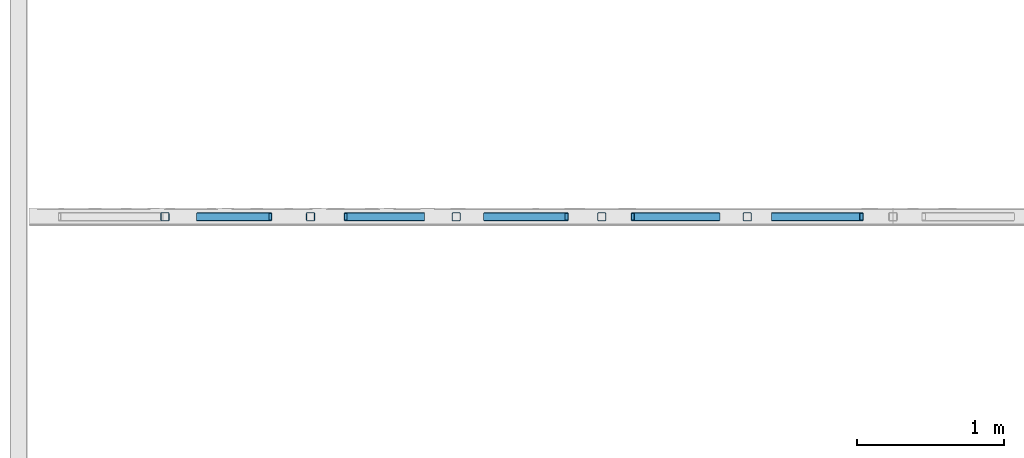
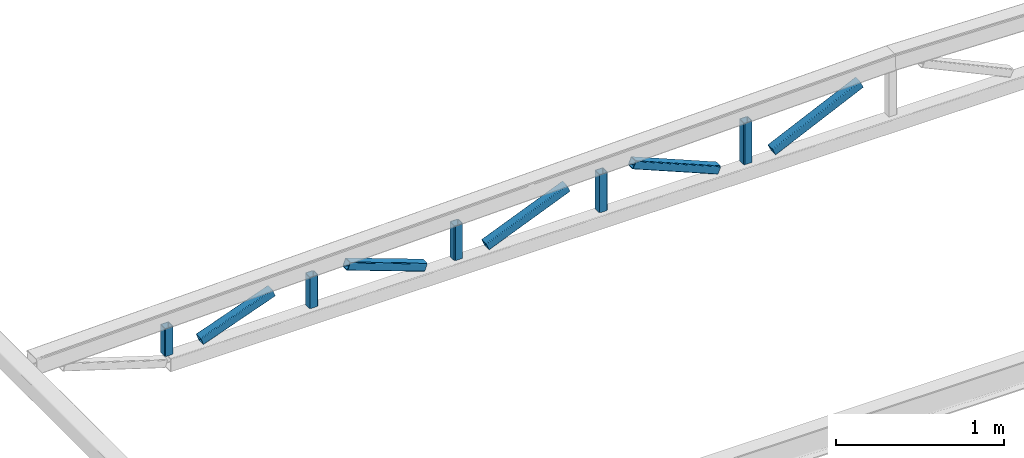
# One storey, part 3 of 10: 10 members, 1 element without a shape of its own.
"""IFC2X3 building model written with IfcOpenShell, lengths in millimetres."""

from ifc_helpers import new_model, entity, si_unit, converted_unit, derived_unit, direction, frame, frame_2d, origin, place, context, subcontext, project, spatial, polyline, circle_curve, parameter, trimmed, segment, composite_curve, outline, extrude, source, transform, mapped, type_object, type_shapes, element, aggregate, save


model = new_model("IFC2X3")

# Units and contexts
model_context = context("Model", 3, precision=0.01, world=origin(), true_north=direction((6.12303176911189e-17, 1.0)))
body_context = subcontext(model_context, "Body", "Model", "MODEL_VIEW")
ifc_project = project(units=[si_unit("LENGTHUNIT", "METRE", prefix="MILLI"), si_unit("AREAUNIT", "SQUARE_METRE"), si_unit("VOLUMEUNIT", "CUBIC_METRE"), converted_unit("PLANEANGLEUNIT", "DEGREE", entity("IfcRatioMeasure", 0.0174532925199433), si_unit("PLANEANGLEUNIT", "RADIAN"), dimensions=[0, 0, 0, 0, 0, 0, 0]), si_unit("MASSUNIT", "GRAM", prefix="KILO"), derived_unit("MASSDENSITYUNIT", [(si_unit("MASSUNIT", "GRAM", prefix="KILO"), 1), (si_unit("LENGTHUNIT", "METRE"), -3)]), si_unit("TIMEUNIT", "SECOND"), si_unit("FREQUENCYUNIT", "HERTZ"), si_unit("THERMODYNAMICTEMPERATUREUNIT", "DEGREE_CELSIUS"), derived_unit("THERMALTRANSMITTANCEUNIT", [(si_unit("MASSUNIT", "GRAM", prefix="KILO"), 1), (si_unit("THERMODYNAMICTEMPERATUREUNIT", "KELVIN"), -1), (si_unit("TIMEUNIT", "SECOND"), -3)]), derived_unit("VOLUMETRICFLOWRATEUNIT", [(si_unit("LENGTHUNIT", "METRE"), 3), (si_unit("TIMEUNIT", "SECOND"), -1)]), si_unit("ELECTRICCURRENTUNIT", "AMPERE"), si_unit("ELECTRICVOLTAGEUNIT", "VOLT"), si_unit("POWERUNIT", "WATT"), si_unit("FORCEUNIT", "NEWTON", prefix="KILO"), si_unit("ILLUMINANCEUNIT", "LUX"), si_unit("LUMINOUSFLUXUNIT", "LUMEN"), si_unit("LUMINOUSINTENSITYUNIT", "CANDELA"), derived_unit("USERDEFINED", [(si_unit("MASSUNIT", "GRAM", prefix="KILO"), -1), (si_unit("LENGTHUNIT", "METRE"), -2), (si_unit("TIMEUNIT", "SECOND"), 3), (si_unit("LUMINOUSFLUXUNIT", "LUMEN"), 1)]), derived_unit("LINEARVELOCITYUNIT", [(si_unit("LENGTHUNIT", "METRE"), 1), (si_unit("TIMEUNIT", "SECOND"), -1)]), si_unit("PRESSUREUNIT", "PASCAL"), derived_unit("USERDEFINED", [(si_unit("LENGTHUNIT", "METRE"), -2), (si_unit("MASSUNIT", "GRAM", prefix="KILO"), 1), (si_unit("TIMEUNIT", "SECOND"), -2)])], contexts=[model_context])

# Site, building, storey
site_placement = place(None, frame((0.0, 0.0, 101000.0)))
site = spatial("IfcSite", under=ifc_project, at=site_placement, Name="Default", CompositionType="ELEMENT")
building_placement = place(site_placement, origin())
building = spatial("IfcBuilding", under=site, at=building_placement, CompositionType="ELEMENT")
storey_placement = place(building_placement, frame((0.0, 0.0, 6025.0)))
storey = spatial("IfcBuildingStorey", under=building, at=storey_placement, Name="03", CompositionType="ELEMENT", Elevation=6024.9999999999)

# Assembly, members
assembly_placement = place(storey_placement, origin())
assembly = element("IfcElementAssembly", 1, at=assembly_placement, inside=storey, Name="Gitterdrager:Standard", ObjectType="Gitterdrager:Standard", AssemblyPlace="NOTDEFINED", PredefinedType="TRUSS")
member_type_1 = type_object("IfcMemberType", Name="60x60x5", PredefinedType="BRACE")
shared_shape_1 = source(origin(), body_context, "Body", "SweptSolid", [
    extrude(outline(composite_curve([segment(trimmed(circle_curve(frame_2d((-20.0, -20.0), x_axis=(1.0, 0.0)), 10.0), [parameter(180.0)], [parameter(270.0)], True, "PARAMETER"), True, "CONTINUOUS"), segment(polyline([(-20.0, -30.0), (20.0, -30.0)]), True, "CONTINUOUS"), segment(trimmed(circle_curve(frame_2d((20.0, -20.0), x_axis=(1.0, 0.0)), 10.0), [parameter(270.0)], [parameter(5.08888749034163e-14)], True, "PARAMETER"), True, "CONTINUOUS"), segment(polyline([(30.0, -20.0), (30.0, 20.0)]), True, "CONTINUOUS"), segment(trimmed(circle_curve(frame_2d((20.0, 20.0), x_axis=(1.0, 0.0)), 10.0), [parameter(360.0)], [parameter(89.9999999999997)], True, "PARAMETER"), True, "CONTINUOUS"), segment(polyline([(20.0, 30.0), (-20.0, 30.0)]), True, "CONTINUOUS"), segment(trimmed(circle_curve(frame_2d((-20.0, 20.0), x_axis=(1.0, 0.0)), 10.0), [parameter(90.0000000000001)], [parameter(180.0)], True, "PARAMETER"), True, "CONTINUOUS"), segment(polyline([(-30.0, 20.0), (-30.0, -20.0)]), True, "CONTINUOUS")], self_intersect=False), holes=[composite_curve([segment(polyline([(20.0, -25.0), (-20.0, -25.0)]), True, "CONTINUOUS"), segment(trimmed(circle_curve(frame_2d((-20.0, -20.0), x_axis=(1.0, 0.0)), 5.0), [parameter(180.0)], [parameter(270.0)], True, "PARAMETER"), False, "CONTINUOUS"), segment(polyline([(-25.0, -20.0), (-25.0, 20.0)]), True, "CONTINUOUS"), segment(trimmed(circle_curve(frame_2d((-20.0, 20.0), x_axis=(1.0, 0.0)), 5.0), [parameter(90.0000000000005)], [parameter(180.0)], True, "PARAMETER"), False, "CONTINUOUS"), segment(polyline([(-20.0, 25.0), (20.0, 25.0)]), True, "CONTINUOUS"), segment(trimmed(circle_curve(frame_2d((20.0, 20.0), x_axis=(1.0, 0.0)), 5.0), [parameter(0.0)], [parameter(90.0000000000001)], True, "PARAMETER"), False, "CONTINUOUS"), segment(polyline([(25.0, 20.0), (25.0, -20.0)]), True, "CONTINUOUS"), segment(trimmed(circle_curve(frame_2d((20.0, -20.0), x_axis=(1.0, 0.0)), 5.0), [parameter(270.0)], [parameter(4.57999874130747e-13)], True, "PARAMETER"), False, "CONTINUOUS")], self_intersect=False)]), frame((-155.792423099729, 0.0, 0.0), z_axis=(1.0, 0.0, 0.0), x_axis=(0.0, -1.0, 0.0)), (0.0, 0.0, 1.0), 300.049419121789),
])
type_shapes(member_type_1, [shared_shape_1])
member_1_placement = place(assembly_placement, frame((16232.9311636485, 26417.9507529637, -122.531331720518), z_axis=(1.0, 0.0, 0.0), x_axis=(0.0, 0.0, 1.0)))
member_1 = element("IfcMember", 2, at=member_1_placement, type_object=member_type_1, Name="Bjelke HUP:60x60x5", ObjectType="60x60x5", context=body_context, shape_type="MappedRepresentation", body=[
    mapped(shared_shape_1, transform((0.0, 0.0, 0.0), scale=1.0)),
])
member_type_2 = type_object("IfcMemberType", Name="60x60x5", PredefinedType="BRACE")
shared_shape_2 = source(origin(), body_context, "Body", "SweptSolid", [
    extrude(outline(composite_curve([segment(trimmed(circle_curve(frame_2d((-20.0, -20.0), x_axis=(1.0, 0.0)), 10.0), [parameter(180.0)], [parameter(270.0)], True, "PARAMETER"), True, "CONTINUOUS"), segment(polyline([(-20.0, -30.0), (20.0, -30.0)]), True, "CONTINUOUS"), segment(trimmed(circle_curve(frame_2d((20.0, -20.0), x_axis=(1.0, 0.0)), 10.0), [parameter(270.0)], [parameter(5.08888749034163e-14)], True, "PARAMETER"), True, "CONTINUOUS"), segment(polyline([(30.0, -20.0), (30.0, 20.0)]), True, "CONTINUOUS"), segment(trimmed(circle_curve(frame_2d((20.0, 20.0), x_axis=(1.0, 0.0)), 10.0), [parameter(360.0)], [parameter(89.9999999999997)], True, "PARAMETER"), True, "CONTINUOUS"), segment(polyline([(20.0, 30.0), (-20.0, 30.0)]), True, "CONTINUOUS"), segment(trimmed(circle_curve(frame_2d((-20.0, 20.0), x_axis=(1.0, 0.0)), 10.0), [parameter(90.0000000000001)], [parameter(180.0)], True, "PARAMETER"), True, "CONTINUOUS"), segment(polyline([(-30.0, 20.0), (-30.0, -20.0)]), True, "CONTINUOUS")], self_intersect=False), holes=[composite_curve([segment(polyline([(20.0, -25.0), (-20.0, -25.0)]), True, "CONTINUOUS"), segment(trimmed(circle_curve(frame_2d((-20.0, -20.0), x_axis=(1.0, 0.0)), 5.0), [parameter(180.0)], [parameter(270.0)], True, "PARAMETER"), False, "CONTINUOUS"), segment(polyline([(-25.0, -20.0), (-25.0, 20.0)]), True, "CONTINUOUS"), segment(trimmed(circle_curve(frame_2d((-20.0, 20.0), x_axis=(1.0, 0.0)), 5.0), [parameter(90.0000000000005)], [parameter(180.0)], True, "PARAMETER"), False, "CONTINUOUS"), segment(polyline([(-20.0, 25.0), (20.0, 25.0)]), True, "CONTINUOUS"), segment(trimmed(circle_curve(frame_2d((20.0, 20.0), x_axis=(1.0, 0.0)), 5.0), [parameter(0.0)], [parameter(90.0000000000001)], True, "PARAMETER"), False, "CONTINUOUS"), segment(polyline([(25.0, 20.0), (25.0, -20.0)]), True, "CONTINUOUS"), segment(trimmed(circle_curve(frame_2d((20.0, -20.0), x_axis=(1.0, 0.0)), 5.0), [parameter(270.0)], [parameter(4.57999874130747e-13)], True, "PARAMETER"), False, "CONTINUOUS")], self_intersect=False)]), frame((-143.393968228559, 0.0, 0.0), z_axis=(1.0, 0.0, 0.0), x_axis=(0.0, -1.0, 0.0)), (0.0, 0.0, 1.0), 275.252509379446),
])
type_shapes(member_type_2, [shared_shape_2])
member_2_placement = place(assembly_placement, frame((15239.6002137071, 26417.9507529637, -134.929786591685), z_axis=(1.0, 0.0, 0.0), x_axis=(0.0, 0.0, 1.0)))
member_2 = element("IfcMember", 3, at=member_2_placement, type_object=member_type_2, Name="Bjelke HUP:60x60x5", ObjectType="60x60x5", context=body_context, shape_type="MappedRepresentation", body=[
    mapped(shared_shape_2, transform((0.0, 0.0, 0.0), scale=1.0)),
])
member_type_3 = type_object("IfcMemberType", Name="60x60x5", PredefinedType="BRACE")
shared_shape_3 = source(origin(), body_context, "Body", "SweptSolid", [
    extrude(outline(composite_curve([segment(trimmed(circle_curve(frame_2d((-20.0, -20.0), x_axis=(1.0, 0.0)), 10.0), [parameter(180.0)], [parameter(270.0)], True, "PARAMETER"), True, "CONTINUOUS"), segment(polyline([(-20.0, -30.0), (20.0, -30.0)]), True, "CONTINUOUS"), segment(trimmed(circle_curve(frame_2d((20.0, -20.0), x_axis=(1.0, 0.0)), 10.0), [parameter(270.0)], [parameter(5.08888749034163e-14)], True, "PARAMETER"), True, "CONTINUOUS"), segment(polyline([(30.0, -20.0), (30.0, 20.0)]), True, "CONTINUOUS"), segment(trimmed(circle_curve(frame_2d((20.0, 20.0), x_axis=(1.0, 0.0)), 10.0), [parameter(360.0)], [parameter(89.9999999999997)], True, "PARAMETER"), True, "CONTINUOUS"), segment(polyline([(20.0, 30.0), (-20.0, 30.0)]), True, "CONTINUOUS"), segment(trimmed(circle_curve(frame_2d((-20.0, 20.0), x_axis=(1.0, 0.0)), 10.0), [parameter(90.0000000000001)], [parameter(180.0)], True, "PARAMETER"), True, "CONTINUOUS"), segment(polyline([(-30.0, 20.0), (-30.0, -20.0)]), True, "CONTINUOUS")], self_intersect=False), holes=[composite_curve([segment(polyline([(20.0, -25.0), (-20.0, -25.0)]), True, "CONTINUOUS"), segment(trimmed(circle_curve(frame_2d((-20.0, -20.0), x_axis=(1.0, 0.0)), 5.0), [parameter(180.0)], [parameter(270.0)], True, "PARAMETER"), False, "CONTINUOUS"), segment(polyline([(-25.0, -20.0), (-25.0, 20.0)]), True, "CONTINUOUS"), segment(trimmed(circle_curve(frame_2d((-20.0, 20.0), x_axis=(1.0, 0.0)), 5.0), [parameter(90.0000000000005)], [parameter(180.0)], True, "PARAMETER"), False, "CONTINUOUS"), segment(polyline([(-20.0, 25.0), (20.0, 25.0)]), True, "CONTINUOUS"), segment(trimmed(circle_curve(frame_2d((20.0, 20.0), x_axis=(1.0, 0.0)), 5.0), [parameter(0.0)], [parameter(90.0000000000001)], True, "PARAMETER"), False, "CONTINUOUS"), segment(polyline([(25.0, 20.0), (25.0, -20.0)]), True, "CONTINUOUS"), segment(trimmed(circle_curve(frame_2d((20.0, -20.0), x_axis=(1.0, 0.0)), 5.0), [parameter(270.0)], [parameter(4.57999874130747e-13)], True, "PARAMETER"), False, "CONTINUOUS")], self_intersect=False)]), frame((-130.995453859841, 0.0, 0.0), z_axis=(1.0, 0.0, 0.0), x_axis=(0.0, -1.0, 0.0)), (0.0, 0.0, 1.0), 250.455480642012),
])
type_shapes(member_type_3, [shared_shape_3])
member_3_placement = place(assembly_placement, frame((14246.2644969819, 26417.9507529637, -147.328300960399), z_axis=(1.0, 0.0, 0.0), x_axis=(0.0, 0.0, 1.0)))
member_3 = element("IfcMember", 4, at=member_3_placement, type_object=member_type_3, Name="Bjelke HUP:60x60x5", ObjectType="60x60x5", context=body_context, shape_type="MappedRepresentation", body=[
    mapped(shared_shape_3, transform((0.0, 0.0, 0.0), scale=1.0)),
])
member_type_4 = type_object("IfcMemberType", Name="60x60x5", PredefinedType="BRACE")
shared_shape_4 = source(origin(), body_context, "Body", "SweptSolid", [
    extrude(outline(composite_curve([segment(trimmed(circle_curve(frame_2d((-20.0, -20.0), x_axis=(1.0, 0.0)), 10.0), [parameter(180.0)], [parameter(270.0)], True, "PARAMETER"), True, "CONTINUOUS"), segment(polyline([(-20.0, -30.0), (20.0, -30.0)]), True, "CONTINUOUS"), segment(trimmed(circle_curve(frame_2d((20.0, -20.0), x_axis=(1.0, 0.0)), 10.0), [parameter(270.0)], [parameter(5.08888749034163e-14)], True, "PARAMETER"), True, "CONTINUOUS"), segment(polyline([(30.0, -20.0), (30.0, 20.0)]), True, "CONTINUOUS"), segment(trimmed(circle_curve(frame_2d((20.0, 20.0), x_axis=(1.0, 0.0)), 10.0), [parameter(360.0)], [parameter(89.9999999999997)], True, "PARAMETER"), True, "CONTINUOUS"), segment(polyline([(20.0, 30.0), (-20.0, 30.0)]), True, "CONTINUOUS"), segment(trimmed(circle_curve(frame_2d((-20.0, 20.0), x_axis=(1.0, 0.0)), 10.0), [parameter(90.0000000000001)], [parameter(180.0)], True, "PARAMETER"), True, "CONTINUOUS"), segment(polyline([(-30.0, 20.0), (-30.0, -20.0)]), True, "CONTINUOUS")], self_intersect=False), holes=[composite_curve([segment(polyline([(20.0, -25.0), (-20.0, -25.0)]), True, "CONTINUOUS"), segment(trimmed(circle_curve(frame_2d((-20.0, -20.0), x_axis=(1.0, 0.0)), 5.0), [parameter(180.0)], [parameter(270.0)], True, "PARAMETER"), False, "CONTINUOUS"), segment(polyline([(-25.0, -20.0), (-25.0, 20.0)]), True, "CONTINUOUS"), segment(trimmed(circle_curve(frame_2d((-20.0, 20.0), x_axis=(1.0, 0.0)), 5.0), [parameter(90.0000000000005)], [parameter(180.0)], True, "PARAMETER"), False, "CONTINUOUS"), segment(polyline([(-20.0, 25.0), (20.0, 25.0)]), True, "CONTINUOUS"), segment(trimmed(circle_curve(frame_2d((20.0, 20.0), x_axis=(1.0, 0.0)), 5.0), [parameter(0.0)], [parameter(90.0000000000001)], True, "PARAMETER"), False, "CONTINUOUS"), segment(polyline([(25.0, 20.0), (25.0, -20.0)]), True, "CONTINUOUS"), segment(trimmed(circle_curve(frame_2d((20.0, -20.0), x_axis=(1.0, 0.0)), 5.0), [parameter(270.0)], [parameter(4.57999874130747e-13)], True, "PARAMETER"), False, "CONTINUOUS")], self_intersect=False)]), frame((-118.596969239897, 0.0, 0.0), z_axis=(1.0, 0.0, 0.0), x_axis=(0.0, -1.0, 0.0)), (0.0, 0.0, 1.0), 225.658511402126),
])
type_shapes(member_type_4, [shared_shape_4])
member_4_placement = place(assembly_placement, frame((13252.9311636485, 26417.9507529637, -159.726785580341), z_axis=(1.0, 0.0, 0.0), x_axis=(0.0, 0.0, 1.0)))
member_4 = element("IfcMember", 5, at=member_4_placement, type_object=member_type_4, Name="Bjelke HUP:60x60x5", ObjectType="60x60x5", context=body_context, shape_type="MappedRepresentation", body=[
    mapped(shared_shape_4, transform((0.0, 0.0, 0.0), scale=1.0)),
])
member_type_5 = type_object("IfcMemberType", Name="60x60x5", PredefinedType="BRACE")
shared_shape_5 = source(origin(), body_context, "Body", "SweptSolid", [
    extrude(outline(composite_curve([segment(trimmed(circle_curve(frame_2d((-20.0, -20.0), x_axis=(1.0, 0.0)), 10.0), [parameter(180.0)], [parameter(270.0)], True, "PARAMETER"), True, "CONTINUOUS"), segment(polyline([(-20.0, -30.0), (20.0, -30.0)]), True, "CONTINUOUS"), segment(trimmed(circle_curve(frame_2d((20.0, -20.0), x_axis=(1.0, 0.0)), 10.0), [parameter(270.0)], [parameter(5.08888749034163e-14)], True, "PARAMETER"), True, "CONTINUOUS"), segment(polyline([(30.0, -20.0), (30.0, 20.0)]), True, "CONTINUOUS"), segment(trimmed(circle_curve(frame_2d((20.0, 20.0), x_axis=(1.0, 0.0)), 10.0), [parameter(360.0)], [parameter(89.9999999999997)], True, "PARAMETER"), True, "CONTINUOUS"), segment(polyline([(20.0, 30.0), (-20.0, 30.0)]), True, "CONTINUOUS"), segment(trimmed(circle_curve(frame_2d((-20.0, 20.0), x_axis=(1.0, 0.0)), 10.0), [parameter(90.0000000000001)], [parameter(180.0)], True, "PARAMETER"), True, "CONTINUOUS"), segment(polyline([(-30.0, 20.0), (-30.0, -20.0)]), True, "CONTINUOUS")], self_intersect=False), holes=[composite_curve([segment(polyline([(20.0, -25.0), (-20.0, -25.0)]), True, "CONTINUOUS"), segment(trimmed(circle_curve(frame_2d((-20.0, -20.0), x_axis=(1.0, 0.0)), 5.0), [parameter(180.0)], [parameter(270.0)], True, "PARAMETER"), False, "CONTINUOUS"), segment(polyline([(-25.0, -20.0), (-25.0, 20.0)]), True, "CONTINUOUS"), segment(trimmed(circle_curve(frame_2d((-20.0, 20.0), x_axis=(1.0, 0.0)), 5.0), [parameter(90.0000000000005)], [parameter(180.0)], True, "PARAMETER"), False, "CONTINUOUS"), segment(polyline([(-20.0, 25.0), (20.0, 25.0)]), True, "CONTINUOUS"), segment(trimmed(circle_curve(frame_2d((20.0, 20.0), x_axis=(1.0, 0.0)), 5.0), [parameter(0.0)], [parameter(90.0000000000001)], True, "PARAMETER"), False, "CONTINUOUS"), segment(polyline([(25.0, 20.0), (25.0, -20.0)]), True, "CONTINUOUS"), segment(trimmed(circle_curve(frame_2d((20.0, -20.0), x_axis=(1.0, 0.0)), 5.0), [parameter(270.0)], [parameter(4.57999874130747e-13)], True, "PARAMETER"), False, "CONTINUOUS")], self_intersect=False)]), frame((-106.198484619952, 0.0, 0.0), z_axis=(1.0, 0.0, 0.0), x_axis=(0.0, -1.0, 0.0)), (0.0, 0.0, 1.0), 200.861542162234),
])
type_shapes(member_type_5, [shared_shape_5])
member_5_placement = place(assembly_placement, frame((12259.5978303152, 26417.9507529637, -172.12527020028), z_axis=(1.0, 0.0, 0.0), x_axis=(0.0, 0.0, 1.0)))
member_5 = element("IfcMember", 6, at=member_5_placement, type_object=member_type_5, Name="Bjelke HUP:60x60x5", ObjectType="60x60x5", context=body_context, shape_type="MappedRepresentation", body=[
    mapped(shared_shape_5, transform((0.0, 0.0, 0.0), scale=1.0)),
])
member_type_6 = type_object("IfcMemberType", Name="60x60x5", PredefinedType="BRACE")
shared_shape_6 = source(origin(), body_context, "Body", "SweptSolid", [
    extrude(outline(composite_curve([segment(trimmed(circle_curve(frame_2d((-20.0, -20.0), x_axis=(1.0, 0.0)), 10.0), [parameter(180.0)], [parameter(270.0)], True, "PARAMETER"), True, "CONTINUOUS"), segment(polyline([(-20.0, -30.0), (20.0, -30.0)]), True, "CONTINUOUS"), segment(trimmed(circle_curve(frame_2d((20.0, -20.0), x_axis=(1.0, 0.0)), 10.0), [parameter(270.0)], [parameter(5.08888749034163e-14)], True, "PARAMETER"), True, "CONTINUOUS"), segment(polyline([(30.0, -20.0), (30.0, 20.0)]), True, "CONTINUOUS"), segment(trimmed(circle_curve(frame_2d((20.0, 20.0), x_axis=(1.0, 0.0)), 10.0), [parameter(360.0)], [parameter(89.9999999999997)], True, "PARAMETER"), True, "CONTINUOUS"), segment(polyline([(20.0, 30.0), (-20.0, 30.0)]), True, "CONTINUOUS"), segment(trimmed(circle_curve(frame_2d((-20.0, 20.0), x_axis=(1.0, 0.0)), 10.0), [parameter(90.0000000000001)], [parameter(180.0)], True, "PARAMETER"), True, "CONTINUOUS"), segment(polyline([(-30.0, 20.0), (-30.0, -20.0)]), True, "CONTINUOUS")], self_intersect=False), holes=[composite_curve([segment(polyline([(20.0, -25.0), (-20.0, -25.0)]), True, "CONTINUOUS"), segment(trimmed(circle_curve(frame_2d((-20.0, -20.0), x_axis=(1.0, 0.0)), 5.0), [parameter(180.0)], [parameter(270.0)], True, "PARAMETER"), False, "CONTINUOUS"), segment(polyline([(-25.0, -20.0), (-25.0, 20.0)]), True, "CONTINUOUS"), segment(trimmed(circle_curve(frame_2d((-20.0, 20.0), x_axis=(1.0, 0.0)), 5.0), [parameter(90.0000000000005)], [parameter(180.0)], True, "PARAMETER"), False, "CONTINUOUS"), segment(polyline([(-20.0, 25.0), (20.0, 25.0)]), True, "CONTINUOUS"), segment(trimmed(circle_curve(frame_2d((20.0, 20.0), x_axis=(1.0, 0.0)), 5.0), [parameter(0.0)], [parameter(90.0000000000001)], True, "PARAMETER"), False, "CONTINUOUS"), segment(polyline([(25.0, 20.0), (25.0, -20.0)]), True, "CONTINUOUS"), segment(trimmed(circle_curve(frame_2d((20.0, -20.0), x_axis=(1.0, 0.0)), 5.0), [parameter(270.0)], [parameter(4.57999874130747e-13)], True, "PARAMETER"), False, "CONTINUOUS")], self_intersect=False)]), frame((-351.247436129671, 0.0, 0.0), z_axis=(1.0, 0.0, 0.0), x_axis=(0.0, -1.0, 0.0)), (0.0, 0.0, 1.0), 664.357457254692),
])
type_shapes(member_type_6, [shared_shape_6])
member_6_placement = place(assembly_placement, frame((16728.5730107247, 26417.9507529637, -110.158430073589), z_axis=(0.422233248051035, 0.0, -0.906487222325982), x_axis=(0.906487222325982, 0.0, 0.422233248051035)))
member_6 = element("IfcMember", 7, at=member_6_placement, type_object=member_type_6, Name="Bjelke HUP:60x60x5", ObjectType="60x60x5", context=body_context, shape_type="MappedRepresentation", body=[
    mapped(shared_shape_6, transform((0.0, 0.0, 0.0), scale=1.0)),
])
member_type_7 = type_object("IfcMemberType", Name="60x60x5", PredefinedType="BRACE")
shared_shape_7 = source(origin(), body_context, "Body", "SweptSolid", [
    extrude(outline(composite_curve([segment(trimmed(circle_curve(frame_2d((-20.0, -20.0), x_axis=(1.0, 0.0)), 10.0), [parameter(180.0)], [parameter(270.0)], True, "PARAMETER"), True, "CONTINUOUS"), segment(polyline([(-20.0, -30.0), (20.0, -30.0)]), True, "CONTINUOUS"), segment(trimmed(circle_curve(frame_2d((20.0, -20.0), x_axis=(1.0, 0.0)), 10.0), [parameter(270.0)], [parameter(5.08888749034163e-14)], True, "PARAMETER"), True, "CONTINUOUS"), segment(polyline([(30.0, -20.0), (30.0, 20.0)]), True, "CONTINUOUS"), segment(trimmed(circle_curve(frame_2d((20.0, 20.0), x_axis=(1.0, 0.0)), 10.0), [parameter(360.0)], [parameter(89.9999999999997)], True, "PARAMETER"), True, "CONTINUOUS"), segment(polyline([(20.0, 30.0), (-20.0, 30.0)]), True, "CONTINUOUS"), segment(trimmed(circle_curve(frame_2d((-20.0, 20.0), x_axis=(1.0, 0.0)), 10.0), [parameter(90.0000000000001)], [parameter(180.0)], True, "PARAMETER"), True, "CONTINUOUS"), segment(polyline([(-30.0, 20.0), (-30.0, -20.0)]), True, "CONTINUOUS")], self_intersect=False), holes=[composite_curve([segment(polyline([(20.0, -25.0), (-20.0, -25.0)]), True, "CONTINUOUS"), segment(trimmed(circle_curve(frame_2d((-20.0, -20.0), x_axis=(1.0, 0.0)), 5.0), [parameter(180.0)], [parameter(270.0)], True, "PARAMETER"), False, "CONTINUOUS"), segment(polyline([(-25.0, -20.0), (-25.0, 20.0)]), True, "CONTINUOUS"), segment(trimmed(circle_curve(frame_2d((-20.0, 20.0), x_axis=(1.0, 0.0)), 5.0), [parameter(90.0000000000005)], [parameter(180.0)], True, "PARAMETER"), False, "CONTINUOUS"), segment(polyline([(-20.0, 25.0), (20.0, 25.0)]), True, "CONTINUOUS"), segment(trimmed(circle_curve(frame_2d((20.0, 20.0), x_axis=(1.0, 0.0)), 5.0), [parameter(0.0)], [parameter(90.0000000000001)], True, "PARAMETER"), False, "CONTINUOUS"), segment(polyline([(25.0, 20.0), (25.0, -20.0)]), True, "CONTINUOUS"), segment(trimmed(circle_curve(frame_2d((20.0, -20.0), x_axis=(1.0, 0.0)), 5.0), [parameter(270.0)], [parameter(4.57999874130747e-13)], True, "PARAMETER"), False, "CONTINUOUS")], self_intersect=False)]), frame((-322.27532019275, 0.0, 0.0), z_axis=(1.0, 0.0, 0.0), x_axis=(0.0, -1.0, 0.0)), (0.0, 0.0, 1.0), 600.830243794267),
])
type_shapes(member_type_7, [shared_shape_7])
member_7_placement = place(assembly_placement, frame((14742.9323553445, 26417.9507529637, -134.929786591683), z_axis=(0.383266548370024, 0.0, -0.923637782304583), x_axis=(0.923637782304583, 0.0, 0.383266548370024)))
member_7 = element("IfcMember", 8, at=member_7_placement, type_object=member_type_7, Name="Bjelke HUP:60x60x5", ObjectType="60x60x5", context=body_context, shape_type="MappedRepresentation", body=[
    mapped(shared_shape_7, transform((0.0, 0.0, 0.0), scale=1.0)),
])
member_type_8 = type_object("IfcMemberType", Name="60x60x5", PredefinedType="BRACE")
shared_shape_8 = source(origin(), body_context, "Body", "SweptSolid", [
    extrude(outline(composite_curve([segment(trimmed(circle_curve(frame_2d((-20.0, -20.0), x_axis=(1.0, 0.0)), 10.0), [parameter(180.0)], [parameter(270.0)], True, "PARAMETER"), True, "CONTINUOUS"), segment(polyline([(-20.0, -30.0), (20.0, -30.0)]), True, "CONTINUOUS"), segment(trimmed(circle_curve(frame_2d((20.0, -20.0), x_axis=(1.0, 0.0)), 10.0), [parameter(270.0)], [parameter(5.08888749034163e-14)], True, "PARAMETER"), True, "CONTINUOUS"), segment(polyline([(30.0, -20.0), (30.0, 20.0)]), True, "CONTINUOUS"), segment(trimmed(circle_curve(frame_2d((20.0, 20.0), x_axis=(1.0, 0.0)), 10.0), [parameter(360.0)], [parameter(89.9999999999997)], True, "PARAMETER"), True, "CONTINUOUS"), segment(polyline([(20.0, 30.0), (-20.0, 30.0)]), True, "CONTINUOUS"), segment(trimmed(circle_curve(frame_2d((-20.0, 20.0), x_axis=(1.0, 0.0)), 10.0), [parameter(90.0000000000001)], [parameter(180.0)], True, "PARAMETER"), True, "CONTINUOUS"), segment(polyline([(-30.0, 20.0), (-30.0, -20.0)]), True, "CONTINUOUS")], self_intersect=False), holes=[composite_curve([segment(polyline([(20.0, -25.0), (-20.0, -25.0)]), True, "CONTINUOUS"), segment(trimmed(circle_curve(frame_2d((-20.0, -20.0), x_axis=(1.0, 0.0)), 5.0), [parameter(180.0)], [parameter(270.0)], True, "PARAMETER"), False, "CONTINUOUS"), segment(polyline([(-25.0, -20.0), (-25.0, 20.0)]), True, "CONTINUOUS"), segment(trimmed(circle_curve(frame_2d((-20.0, 20.0), x_axis=(1.0, 0.0)), 5.0), [parameter(90.0000000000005)], [parameter(180.0)], True, "PARAMETER"), False, "CONTINUOUS"), segment(polyline([(-20.0, 25.0), (20.0, 25.0)]), True, "CONTINUOUS"), segment(trimmed(circle_curve(frame_2d((20.0, 20.0), x_axis=(1.0, 0.0)), 5.0), [parameter(0.0)], [parameter(90.0000000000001)], True, "PARAMETER"), False, "CONTINUOUS"), segment(polyline([(25.0, 20.0), (25.0, -20.0)]), True, "CONTINUOUS"), segment(trimmed(circle_curve(frame_2d((20.0, -20.0), x_axis=(1.0, 0.0)), 5.0), [parameter(270.0)], [parameter(4.57999874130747e-13)], True, "PARAMETER"), False, "CONTINUOUS")], self_intersect=False)]), frame((-307.939240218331, 0.0, 0.0), z_axis=(1.0, 0.0, 0.0), x_axis=(0.0, -1.0, 0.0)), (0.0, 0.0, 1.0), 630.213240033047),
])
type_shapes(member_type_8, [shared_shape_8])
member_8_placement = place(assembly_placement, frame((15736.2656886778, 26417.9507529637, -134.929786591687), z_axis=(-0.383268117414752, 0.0, -0.923637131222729), x_axis=(0.923637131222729, 0.0, -0.383268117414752)))
member_8 = element("IfcMember", 9, at=member_8_placement, type_object=member_type_8, Name="Bjelke HUP:60x60x5", ObjectType="60x60x5", context=body_context, shape_type="MappedRepresentation", body=[
    mapped(shared_shape_8, transform((0.0, 0.0, 0.0), scale=1.0)),
])
member_type_9 = type_object("IfcMemberType", Name="60x60x5", PredefinedType="BRACE")
shared_shape_9 = source(origin(), body_context, "Body", "SweptSolid", [
    extrude(outline(composite_curve([segment(trimmed(circle_curve(frame_2d((-20.0, -20.0), x_axis=(1.0, 0.0)), 10.0), [parameter(180.0)], [parameter(270.0)], True, "PARAMETER"), True, "CONTINUOUS"), segment(polyline([(-20.0, -30.0), (20.0, -30.0)]), True, "CONTINUOUS"), segment(trimmed(circle_curve(frame_2d((20.0, -20.0), x_axis=(1.0, 0.0)), 10.0), [parameter(270.0)], [parameter(5.08888749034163e-14)], True, "PARAMETER"), True, "CONTINUOUS"), segment(polyline([(30.0, -20.0), (30.0, 20.0)]), True, "CONTINUOUS"), segment(trimmed(circle_curve(frame_2d((20.0, 20.0), x_axis=(1.0, 0.0)), 10.0), [parameter(360.0)], [parameter(89.9999999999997)], True, "PARAMETER"), True, "CONTINUOUS"), segment(polyline([(20.0, 30.0), (-20.0, 30.0)]), True, "CONTINUOUS"), segment(trimmed(circle_curve(frame_2d((-20.0, 20.0), x_axis=(1.0, 0.0)), 10.0), [parameter(90.0000000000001)], [parameter(180.0)], True, "PARAMETER"), True, "CONTINUOUS"), segment(polyline([(-30.0, 20.0), (-30.0, -20.0)]), True, "CONTINUOUS")], self_intersect=False), holes=[composite_curve([segment(polyline([(20.0, -25.0), (-20.0, -25.0)]), True, "CONTINUOUS"), segment(trimmed(circle_curve(frame_2d((-20.0, -20.0), x_axis=(1.0, 0.0)), 5.0), [parameter(180.0)], [parameter(270.0)], True, "PARAMETER"), False, "CONTINUOUS"), segment(polyline([(-25.0, -20.0), (-25.0, 20.0)]), True, "CONTINUOUS"), segment(trimmed(circle_curve(frame_2d((-20.0, 20.0), x_axis=(1.0, 0.0)), 5.0), [parameter(90.0000000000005)], [parameter(180.0)], True, "PARAMETER"), False, "CONTINUOUS"), segment(polyline([(-20.0, 25.0), (20.0, 25.0)]), True, "CONTINUOUS"), segment(trimmed(circle_curve(frame_2d((20.0, 20.0), x_axis=(1.0, 0.0)), 5.0), [parameter(0.0)], [parameter(90.0000000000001)], True, "PARAMETER"), False, "CONTINUOUS"), segment(polyline([(25.0, 20.0), (25.0, -20.0)]), True, "CONTINUOUS"), segment(trimmed(circle_curve(frame_2d((20.0, -20.0), x_axis=(1.0, 0.0)), 5.0), [parameter(270.0)], [parameter(4.57999874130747e-13)], True, "PARAMETER"), False, "CONTINUOUS")], self_intersect=False)]), frame((-273.871385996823, 0.0, 0.0), z_axis=(1.0, 0.0, 0.0), x_axis=(0.0, -1.0, 0.0)), (0.0, 0.0, 1.0), 561.89082896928),
])
type_shapes(member_type_9, [shared_shape_9])
member_9_placement = place(assembly_placement, frame((13749.5978303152, 26417.9507529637, -159.726785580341), z_axis=(-0.342896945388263, 0.0, -0.939373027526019), x_axis=(0.939373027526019, 0.0, -0.342896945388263)))
member_9 = element("IfcMember", 10, at=member_9_placement, type_object=member_type_9, Name="Bjelke HUP:60x60x5", ObjectType="60x60x5", context=body_context, shape_type="MappedRepresentation", body=[
    mapped(shared_shape_9, transform((0.0, 0.0, 0.0), scale=1.0)),
])
member_type_10 = type_object("IfcMemberType", Name="60x60x5", PredefinedType="BRACE")
shared_shape_10 = source(origin(), body_context, "Body", "SweptSolid", [
    extrude(outline(composite_curve([segment(trimmed(circle_curve(frame_2d((-20.0, -20.0), x_axis=(1.0, 0.0)), 10.0), [parameter(180.0)], [parameter(270.0)], True, "PARAMETER"), True, "CONTINUOUS"), segment(polyline([(-20.0, -30.0), (20.0, -30.0)]), True, "CONTINUOUS"), segment(trimmed(circle_curve(frame_2d((20.0, -20.0), x_axis=(1.0, 0.0)), 10.0), [parameter(270.0)], [parameter(5.08888749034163e-14)], True, "PARAMETER"), True, "CONTINUOUS"), segment(polyline([(30.0, -20.0), (30.0, 20.0)]), True, "CONTINUOUS"), segment(trimmed(circle_curve(frame_2d((20.0, 20.0), x_axis=(1.0, 0.0)), 10.0), [parameter(360.0)], [parameter(89.9999999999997)], True, "PARAMETER"), True, "CONTINUOUS"), segment(polyline([(20.0, 30.0), (-20.0, 30.0)]), True, "CONTINUOUS"), segment(trimmed(circle_curve(frame_2d((-20.0, 20.0), x_axis=(1.0, 0.0)), 10.0), [parameter(90.0000000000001)], [parameter(180.0)], True, "PARAMETER"), True, "CONTINUOUS"), segment(polyline([(-30.0, 20.0), (-30.0, -20.0)]), True, "CONTINUOUS")], self_intersect=False), holes=[composite_curve([segment(polyline([(20.0, -25.0), (-20.0, -25.0)]), True, "CONTINUOUS"), segment(trimmed(circle_curve(frame_2d((-20.0, -20.0), x_axis=(1.0, 0.0)), 5.0), [parameter(180.0)], [parameter(270.0)], True, "PARAMETER"), False, "CONTINUOUS"), segment(polyline([(-25.0, -20.0), (-25.0, 20.0)]), True, "CONTINUOUS"), segment(trimmed(circle_curve(frame_2d((-20.0, 20.0), x_axis=(1.0, 0.0)), 5.0), [parameter(90.0000000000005)], [parameter(180.0)], True, "PARAMETER"), False, "CONTINUOUS"), segment(polyline([(-20.0, 25.0), (20.0, 25.0)]), True, "CONTINUOUS"), segment(trimmed(circle_curve(frame_2d((20.0, 20.0), x_axis=(1.0, 0.0)), 5.0), [parameter(0.0)], [parameter(90.0000000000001)], True, "PARAMETER"), False, "CONTINUOUS"), segment(polyline([(25.0, 20.0), (25.0, -20.0)]), True, "CONTINUOUS"), segment(trimmed(circle_curve(frame_2d((20.0, -20.0), x_axis=(1.0, 0.0)), 5.0), [parameter(270.0)], [parameter(4.57999874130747e-13)], True, "PARAMETER"), False, "CONTINUOUS")], self_intersect=False)]), frame((-288.01944297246, 0.0, 0.0), z_axis=(1.0, 0.0, 0.0), x_axis=(0.0, -1.0, 0.0)), (0.0, 0.0, 1.0), 524.731615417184),
])
type_shapes(member_type_10, [shared_shape_10])
member_10_placement = place(assembly_placement, frame((12756.2644969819, 26417.9507529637, -159.726785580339), z_axis=(0.342896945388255, 0.0, -0.939373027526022), x_axis=(0.939373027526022, 0.0, 0.342896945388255)))
member_10 = element("IfcMember", 11, at=member_10_placement, type_object=member_type_10, Name="Bjelke HUP:60x60x5", ObjectType="60x60x5", context=body_context, shape_type="MappedRepresentation", body=[
    mapped(shared_shape_10, transform((0.0, 0.0, 0.0), scale=1.0)),
])
aggregate(assembly, [member_1, member_2, member_3, member_4, member_5, member_6, member_7, member_8, member_9, member_10])

save(model, "model.ifc")
